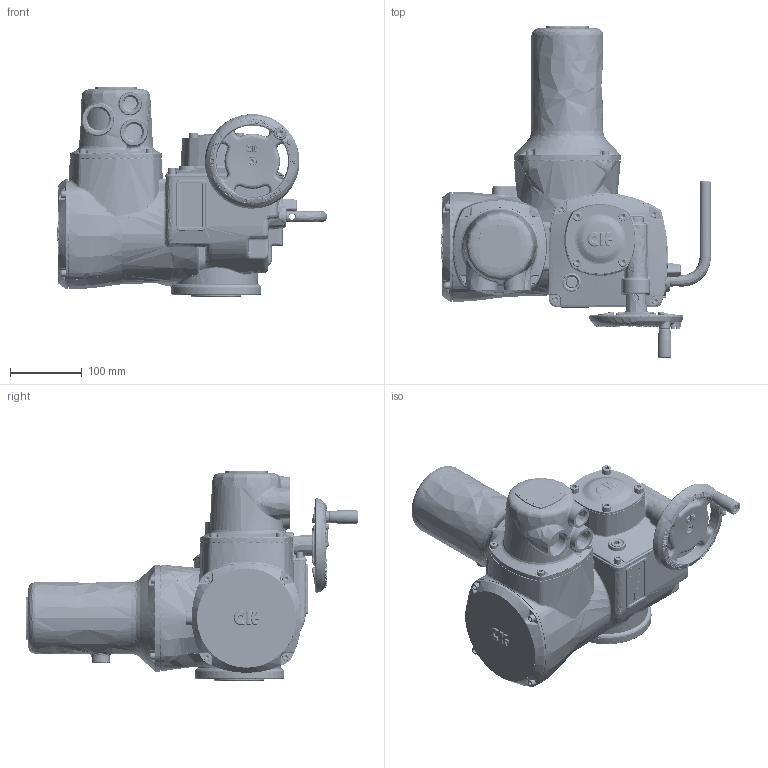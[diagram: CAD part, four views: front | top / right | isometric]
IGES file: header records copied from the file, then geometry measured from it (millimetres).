
Start section: C
Global section: file name: CK120 F10 NON THRUST BASE.igs; native system: By Siemens PLM Incorporated; preprocessor: XPlus GENERIC/IGES 19.0.9; author: Author; organization: Title; date: 20170823.183747; units: millimetre
Bounding box: 376.35 x 462.65 x 292.21 mm (x, y, z)
Surface area: 472271.6 mm2 (no closed solid volume)
Topology: 0 solids, 0 shells, 4886 faces, 28299 edges, 28063 vertices
Faces by surface type: bspline 4886
